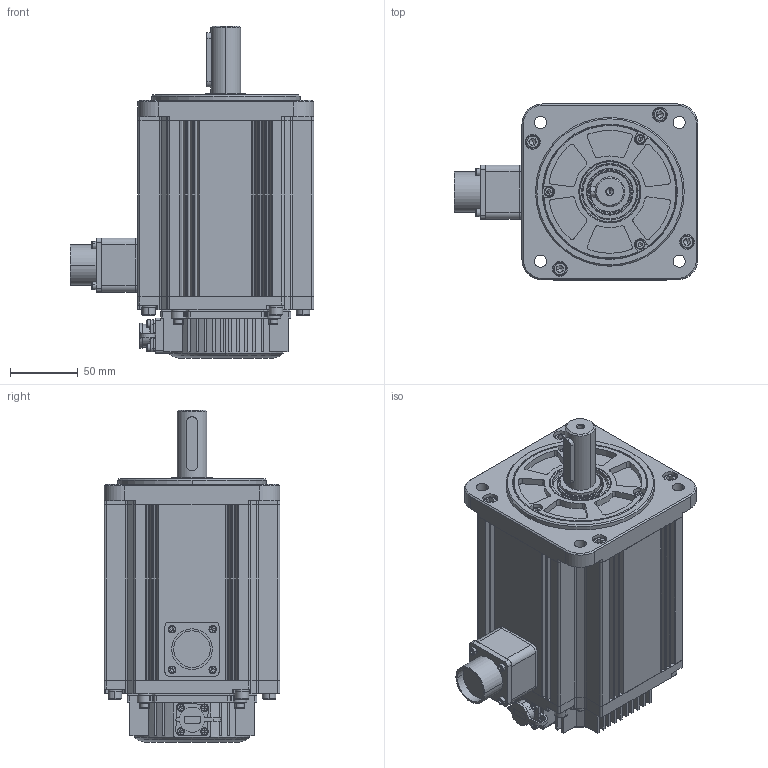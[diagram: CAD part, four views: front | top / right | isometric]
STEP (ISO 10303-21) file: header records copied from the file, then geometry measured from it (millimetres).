
FILE_DESCRIPTION (( 'STEP AP214' ), '1' );
FILE_NAME ('EMG-15（二代).STEP', '2020-03-30T10:16:47', ( '' ), ( '' ), 'SwSTEP 2.0', 'SolidWorks 2018', '' );
FILE_SCHEMA (( 'AUTOMOTIVE_DESIGN' ));
Length unit declared in the file: millimetre
Products named in the file (64): hexagon socket head cap screws gb; 6; 7; 4; 3; wave single coil spring lock washers gb; 1; 2; EMG-15ㄗ媼測); hexagon socket head cap screws gb_GB_FASTENER_SCREWS_HSHCS M3X12-NHDA; 8; hexagon socket head cap screws gb_GB_FASTENER_SCREWS_HSHCS M6X16-NHDA; wave single coil spring lock washers gb_GB_FASTENER_WASHER_WSLW 6; hexagon socket head cap screws gb_GB_FASTENER_SCREWS_HSHCS M4X12-NHDA; wave single coil spring lock washers gb_GB_FASTENER_WASHER_WSLW 4; 12; 11; 10; 5; 9
Assembly tree (46 placements, depth 2):
  hexagon socket head cap screws gb
  hexagon socket head cap screws gb
  7
  hexagon socket head cap screws gb
  hexagon socket head cap screws gb
Bounding box: 180.05 x 130 x 245.5 mm (x, y, z)
Volume: 2438477.1 mm3; surface area: 318722.1 mm2
Topology: 47 solids, 48 shells, 2091 faces, 5463 edges, 3512 vertices
Faces by surface type: plane 1023, cylinder 789, cone 182, torus 68, bspline 19, sphere 10
Entity records: 58884 total; most frequent: CARTESIAN_POINT 12919, ORIENTED_EDGE 8126, DIRECTION 8093, EDGE_CURVE 4063, AXIS2_PLACEMENT_3D 2884, VERTEX_POINT 2698, VECTOR 2325, LINE 2325
